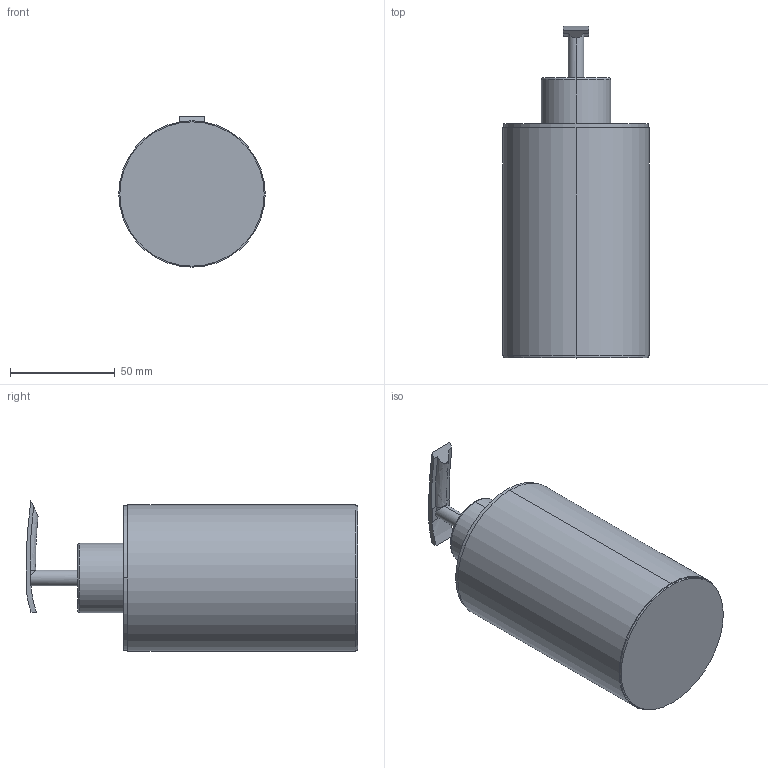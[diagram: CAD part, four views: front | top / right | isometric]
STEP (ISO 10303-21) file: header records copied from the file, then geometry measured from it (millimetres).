
FILE_DESCRIPTION (( 'STEP AP214' ), '1' );
FILE_NAME ('Okr¹g³y dozownik stoj¹cy TELIS.STEP', '2025-10-29T09:12:44', ( '' ), ( '' ), 'SwSTEP 2.0', 'SolidWorks 2021', '' );
FILE_SCHEMA (( 'AUTOMOTIVE_DESIGN' ));
Length unit declared in the file: millimetre
Products named in the file (6): Tuleja z gwintem; Okr¹g³y dozownik stoj¹cy TELIS; 08-003-0110-S-01-01; 06-007-0160-S-00-02; Pompka dozownika górna; 06-007-0160-S-00-01
Assembly tree (5 placements, depth 2):
  Okr¹g³y dozownik stoj¹cy TELIS
    06-007-0160-S-00-01
    Tuleja z gwintem
    06-007-0160-S-00-02
    08-003-0110-S-01-01
    Pompka dozownika górna
Bounding box: 70 x 158.7 x 71.9 mm (x, y, z)
Volume: 80333.7 mm3; surface area: 70689.7 mm2
Topology: 5 solids, 5 shells, 66 faces, 150 edges, 97 vertices
Faces by surface type: cylinder 31, plane 23, bspline 10, torus 2
Entity records: 3849 total; most frequent: CARTESIAN_POINT 2196, ORIENTED_EDGE 300, DIRECTION 294, EDGE_CURVE 150, AXIS2_PLACEMENT_3D 122, VERTEX_POINT 97, EDGE_LOOP 75, FACE_OUTER_BOUND 66
